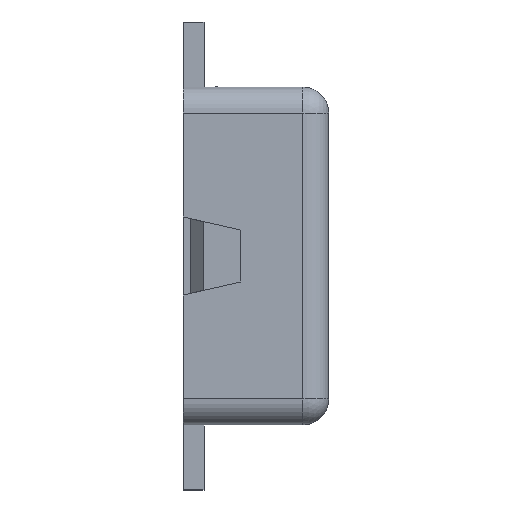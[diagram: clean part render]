
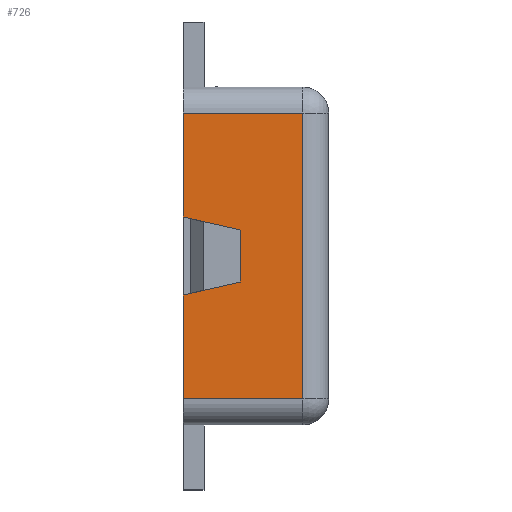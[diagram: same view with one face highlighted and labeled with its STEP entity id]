
A CAD part, left-side view. The second image highlights one B-rep face of the part: STEP entity #726.
In plain terms, the highlighted planar face has unit normal (-1, 0, 0).
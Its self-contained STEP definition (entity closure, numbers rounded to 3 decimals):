
#57 = LINE ( 'NONE', #6822, #6572 ) ;
#218 = LINE ( 'NONE', #4126, #852 ) ;
#253 = PLANE ( 'NONE',  #1669 ) ;
#351 = EDGE_LOOP ( 'NONE', ( #6788, #6462, #2331, #5574, #7201, #1391, #5804, #3301 ) ) ;
#559 = CARTESIAN_POINT ( 'NONE',  ( -2.93, 0.24, 0.55 ) ) ;
#687 = EDGE_CURVE ( 'NONE', #3576, #1615, #1821, .T. ) ;
#726 = ADVANCED_FACE ( 'NONE', ( #5314 ), #253, .T. ) ;
#852 = VECTOR ( 'NONE', #4755, 1000. ) ;
#877 = VECTOR ( 'NONE', #1408, 1000. ) ;
#1205 = LINE ( 'NONE', #3400, #5157 ) ;
#1279 = DIRECTION ( 'NONE',  ( 0., 0., 1. ) ) ;
#1388 = CARTESIAN_POINT ( 'NONE',  ( -2.93, 0.7, 0.15 ) ) ;
#1391 = ORIENTED_EDGE ( 'NONE', *, *, #4059, .F. ) ;
#1408 = DIRECTION ( 'NONE',  ( 0., 1., 0. ) ) ;
#1485 = CARTESIAN_POINT ( 'NONE',  ( -2.93, 0.48, -0.1 ) ) ;
#1518 = CARTESIAN_POINT ( 'NONE',  ( -2.93, 0.7, -0.55 ) ) ;
#1615 = VERTEX_POINT ( 'NONE', #5407 ) ;
#1669 = AXIS2_PLACEMENT_3D ( 'NONE', #2530, #1972, #4158 ) ;
#1795 = LINE ( 'NONE', #4592, #4583 ) ;
#1821 = LINE ( 'NONE', #3080, #5941 ) ;
#1837 = LINE ( 'NONE', #1907, #2559 ) ;
#1840 = EDGE_CURVE ( 'NONE', #3576, #6610, #218, .T. ) ;
#1859 = CARTESIAN_POINT ( 'NONE',  ( -2.93, 0.7, 0.15 ) ) ;
#1877 = EDGE_CURVE ( 'NONE', #6959, #6610, #6253, .T. ) ;
#1907 = CARTESIAN_POINT ( 'NONE',  ( -2.93, 0.7, -0.58 ) ) ;
#1931 = DIRECTION ( 'NONE',  ( 0., -0.975, -0.222 ) ) ;
#1972 = DIRECTION ( 'NONE',  ( -1., 0., 0. ) ) ;
#2331 = ORIENTED_EDGE ( 'NONE', *, *, #6747, .F. ) ;
#2530 = CARTESIAN_POINT ( 'NONE',  ( -2.93, 0.27, 0.45 ) ) ;
#2559 = VECTOR ( 'NONE', #1279, 1000. ) ;
#2573 = LINE ( 'NONE', #1518, #877 ) ;
#2610 = CARTESIAN_POINT ( 'NONE',  ( -2.93, 0.7, -0.55 ) ) ;
#3080 = CARTESIAN_POINT ( 'NONE',  ( -2.93, 0.48, -0.1 ) ) ;
#3301 = ORIENTED_EDGE ( 'NONE', *, *, #1877, .T. ) ;
#3319 = DIRECTION ( 'NONE',  ( 0., 0., 1. ) ) ;
#3320 = VERTEX_POINT ( 'NONE', #559 ) ;
#3400 = CARTESIAN_POINT ( 'NONE',  ( -2.93, 0.24, 0.45 ) ) ;
#3539 = EDGE_CURVE ( 'NONE', #5931, #7327, #2573, .T. ) ;
#3576 = VERTEX_POINT ( 'NONE', #1485 ) ;
#4059 = EDGE_CURVE ( 'NONE', #5843, #3320, #1795, .T. ) ;
#4126 = CARTESIAN_POINT ( 'NONE',  ( -2.93, 0.48, 0.21 ) ) ;
#4158 = DIRECTION ( 'NONE',  ( 0., 0., -1. ) ) ;
#4583 = VECTOR ( 'NONE', #5187, 1000. ) ;
#4592 = CARTESIAN_POINT ( 'NONE',  ( -2.93, 0.27, 0.55 ) ) ;
#4755 = DIRECTION ( 'NONE',  ( 0., 0., 1. ) ) ;
#4761 = CARTESIAN_POINT ( 'NONE',  ( -2.93, 0.7, 0.55 ) ) ;
#4894 = VECTOR ( 'NONE', #1931, 1000. ) ;
#5157 = VECTOR ( 'NONE', #6821, 1000. ) ;
#5187 = DIRECTION ( 'NONE',  ( 0., -1., 0. ) ) ;
#5314 = FACE_OUTER_BOUND ( 'NONE', #351, .T. ) ;
#5347 = DIRECTION ( 'NONE',  ( 0., 0.975, -0.222 ) ) ;
#5395 = CARTESIAN_POINT ( 'NONE',  ( -2.93, 0.24, -0.55 ) ) ;
#5407 = CARTESIAN_POINT ( 'NONE',  ( -2.93, 0.7, -0.15 ) ) ;
#5574 = ORIENTED_EDGE ( 'NONE', *, *, #3539, .F. ) ;
#5629 = CARTESIAN_POINT ( 'NONE',  ( -2.93, 0.48, 0.1 ) ) ;
#5804 = ORIENTED_EDGE ( 'NONE', *, *, #6583, .F. ) ;
#5819 = EDGE_CURVE ( 'NONE', #3320, #5931, #1205, .T. ) ;
#5843 = VERTEX_POINT ( 'NONE', #4761 ) ;
#5931 = VERTEX_POINT ( 'NONE', #5395 ) ;
#5941 = VECTOR ( 'NONE', #5347, 1000. ) ;
#6253 = LINE ( 'NONE', #1859, #4894 ) ;
#6462 = ORIENTED_EDGE ( 'NONE', *, *, #687, .T. ) ;
#6572 = VECTOR ( 'NONE', #3319, 1000. ) ;
#6583 = EDGE_CURVE ( 'NONE', #6959, #5843, #57, .T. ) ;
#6610 = VERTEX_POINT ( 'NONE', #5629 ) ;
#6747 = EDGE_CURVE ( 'NONE', #7327, #1615, #1837, .T. ) ;
#6788 = ORIENTED_EDGE ( 'NONE', *, *, #1840, .F. ) ;
#6821 = DIRECTION ( 'NONE',  ( 0., 0., -1. ) ) ;
#6822 = CARTESIAN_POINT ( 'NONE',  ( -2.93, 0.7, -0.58 ) ) ;
#6959 = VERTEX_POINT ( 'NONE', #1388 ) ;
#7201 = ORIENTED_EDGE ( 'NONE', *, *, #5819, .F. ) ;
#7327 = VERTEX_POINT ( 'NONE', #2610 ) ;
